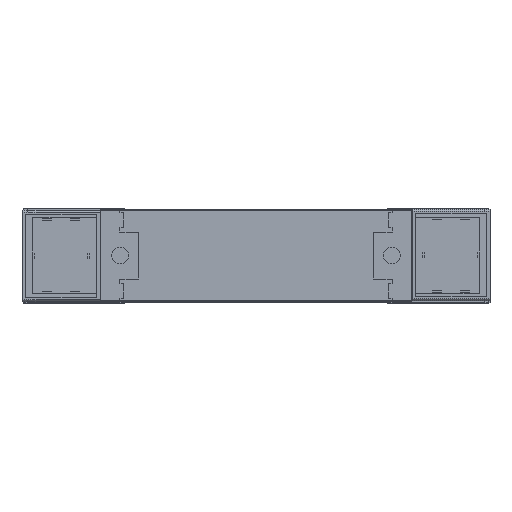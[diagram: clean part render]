
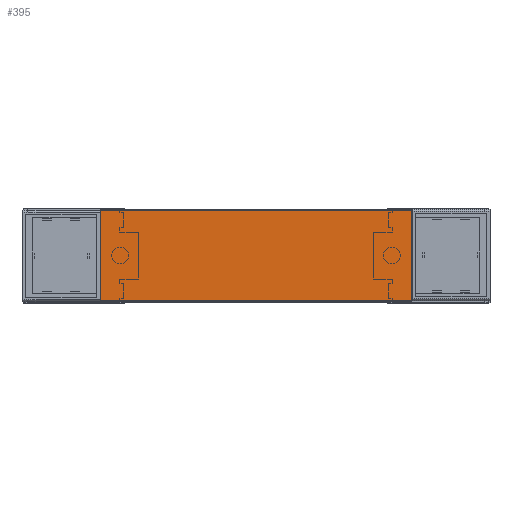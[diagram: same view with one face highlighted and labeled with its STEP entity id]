
A CAD part, top view. The second image highlights one B-rep face of the part: STEP entity #395.
In plain terms, the highlighted planar face has unit normal (0, 0, 1) as drawn and (0, 0, -1) by its records, which use the part's own axes.
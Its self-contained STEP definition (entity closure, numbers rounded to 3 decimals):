
#395 = ADVANCED_FACE( '', ( #810 ), #811, .F. );
#810 = FACE_OUTER_BOUND( '', #1292, .T. );
#811 = PLANE( '', #1293 );
#1292 = EDGE_LOOP( '', ( #2090, #2091, #2092, #2093 ) );
#1293 = AXIS2_PLACEMENT_3D( '', #2094, #2095, #2096 );
#2090 = ORIENTED_EDGE( '', *, *, #3336, .T. );
#2091 = ORIENTED_EDGE( '', *, *, #3337, .F. );
#2092 = ORIENTED_EDGE( '', *, *, #3338, .F. );
#2093 = ORIENTED_EDGE( '', *, *, #3218, .T. );
#2094 = CARTESIAN_POINT( '', ( 165.5, 0., 0. ) );
#2095 = DIRECTION( '', ( 0., 0., 1. ) );
#2096 = DIRECTION( '', ( 1., 0., 0. ) );
#3218 = EDGE_CURVE( '', #3918, #3916, #3919, .T. );
#3336 = EDGE_CURVE( '', #3916, #4105, #4106, .T. );
#3337 = EDGE_CURVE( '', #4107, #4105, #4108, .T. );
#3338 = EDGE_CURVE( '', #3918, #4107, #4109, .T. );
#3916 = VERTEX_POINT( '', #4906 );
#3918 = VERTEX_POINT( '', #4909 );
#3919 = LINE( '', #4910, #4911 );
#4105 = VERTEX_POINT( '', #5182 );
#4106 = LINE( '', #5183, #5184 );
#4107 = VERTEX_POINT( '', #5185 );
#4108 = LINE( '', #5186, #5187 );
#4109 = LINE( '', #5188, #5189 );
#4906 = CARTESIAN_POINT( '', ( -165.5, 0., 0. ) );
#4909 = CARTESIAN_POINT( '', ( 165.5, 0., 0. ) );
#4910 = CARTESIAN_POINT( '', ( 165.5, 0., 0. ) );
#4911 = VECTOR( '', #5888, 1000. );
#5182 = CARTESIAN_POINT( '', ( -165.5, 98., 0. ) );
#5183 = CARTESIAN_POINT( '', ( -165.5, 0., 0. ) );
#5184 = VECTOR( '', #5995, 1000. );
#5185 = CARTESIAN_POINT( '', ( 165.5, 98., 0. ) );
#5186 = CARTESIAN_POINT( '', ( 165.5, 98., 0. ) );
#5187 = VECTOR( '', #5996, 1000. );
#5188 = CARTESIAN_POINT( '', ( 165.5, 0., 0. ) );
#5189 = VECTOR( '', #5997, 1000. );
#5888 = DIRECTION( '', ( -1., 0., 0. ) );
#5995 = DIRECTION( '', ( 0., 1., 0. ) );
#5996 = DIRECTION( '', ( -1., 0., 0. ) );
#5997 = DIRECTION( '', ( 0., 1., 0. ) );
